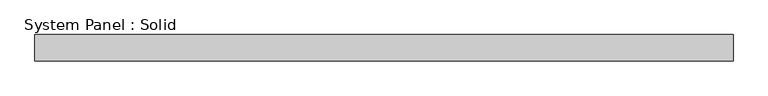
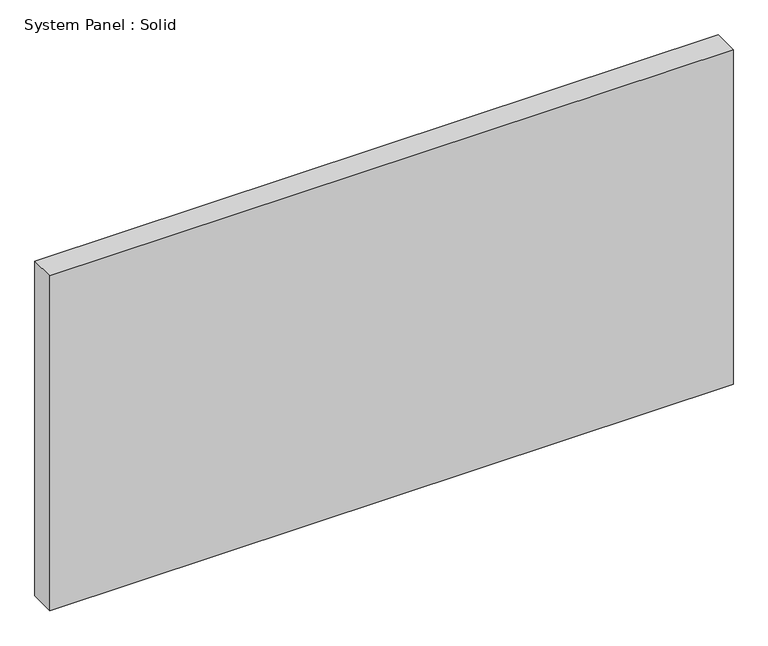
"""IFC4 building model written with IfcOpenShell, lengths in millimetres: plate geometry, System Panel : Solid."""

from ifc_helpers import new_model, si_unit, origin, origin_with_axes, place, context, project, spatial, polyline, outline, extrude, source, transform, mapped, element, save


def system_panel_solid_62af6a1f(model_context):
    return source(origin(), model_context, "Body", "SweptSolid", [
        extrude(outline(polyline([(842.957653, -19.05), (-842.957653, -19.05), (-842.957653, 44.45), (842.957653, 44.45), (842.957653, -19.05)])), origin_with_axes(), (0.0, 0.0, 1.0), 873.1346896),
    ])


if __name__ == "__main__":
    model = new_model("IFC4")
    model_context = context("Model", 3, world=origin())
    ifc_project = project(units=[si_unit("LENGTHUNIT", "METRE", prefix="MILLI")], contexts=[model_context])
    site = spatial("IfcSite", under=ifc_project)
    building = spatial("IfcBuilding", under=site)
    placement = place(None, origin())
    system_panel_solid_shape = system_panel_solid_62af6a1f(model_context)
    element("IfcPlate", 1, ObjectType="System Panel : Solid", at=placement, inside=building, context=model_context, shape_type="MappedRepresentation", body=[
        mapped(system_panel_solid_shape, transform((0.0, 0.0, 0.0), x_axis=(1.0, 0.0, 0.0), y_axis=(0.0, 1.0, 0.0), z_axis=(0.0, 0.0, 1.0))),
    ])
    save(model, "model.ifc")
